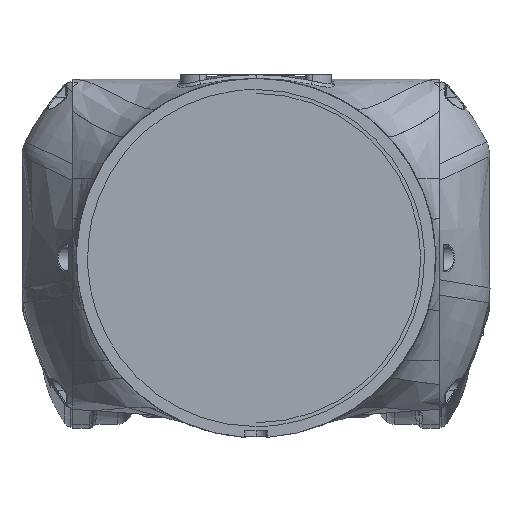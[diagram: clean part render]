
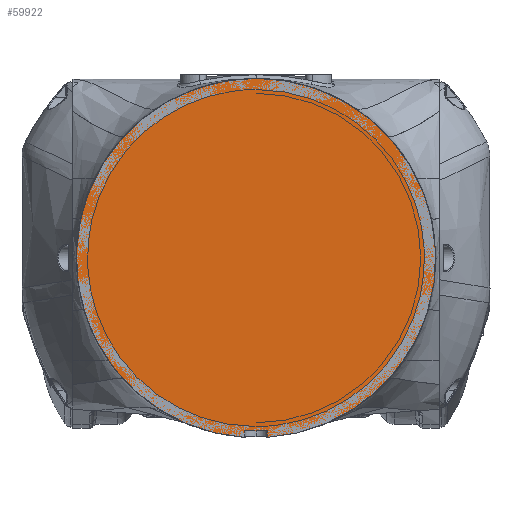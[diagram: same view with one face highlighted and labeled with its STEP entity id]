
A CAD part, left-side view. The second image highlights one B-rep face of the part: STEP entity #59922.
In plain terms, the highlighted planar face has unit normal (-1, 0, 0).
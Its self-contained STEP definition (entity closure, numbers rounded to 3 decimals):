
#3888 = CARTESIAN_POINT ( 'NONE',  ( 153.66, -36.149, 0. ) ) ;
#4900 = VECTOR ( 'NONE', #70456, 1000. ) ;
#5626 = CARTESIAN_POINT ( 'NONE',  ( 153.66, 0., 0. ) ) ;
#6675 = EDGE_CURVE ( 'NONE', #54470, #45057, #63961, .T. ) ;
#7487 = EDGE_LOOP ( 'NONE', ( #47239, #46988, #44634, #57866, #60477 ) ) ;
#11701 = VERTEX_POINT ( 'NONE', #39465 ) ;
#16525 = AXIS2_PLACEMENT_3D ( 'NONE', #59870, #86655, #26484 ) ;
#16888 = LINE ( 'NONE', #43602, #4900 ) ;
#17796 = DIRECTION ( 'NONE',  ( 0., 0., 1. ) ) ;
#20277 = CARTESIAN_POINT ( 'NONE',  ( 153.66, -36.149, 422.794 ) ) ;
#24834 = AXIS2_PLACEMENT_3D ( 'NONE', #5626, #32301, #59131 ) ;
#25304 = DIRECTION ( 'NONE',  ( 0., 0., 1. ) ) ;
#26484 = DIRECTION ( 'NONE',  ( 0., 0., 1. ) ) ;
#30597 = DIRECTION ( 'NONE',  ( 0., 0., -1. ) ) ;
#32301 = DIRECTION ( 'NONE',  ( -1., 0., 0. ) ) ;
#32960 = VERTEX_POINT ( 'NONE', #63428 ) ;
#37836 = AXIS2_PLACEMENT_3D ( 'NONE', #51114, #77971, #17796 ) ;
#38870 = FACE_OUTER_BOUND ( 'NONE', #7487, .T. ) ;
#39465 = CARTESIAN_POINT ( 'NONE',  ( 153.66, -30.149, 422.794 ) ) ;
#43602 = CARTESIAN_POINT ( 'NONE',  ( 153.66, 0., 422.794 ) ) ;
#44634 = ORIENTED_EDGE ( 'NONE', *, *, #51923, .T. ) ;
#45057 = VERTEX_POINT ( 'NONE', #60329 ) ;
#46988 = ORIENTED_EDGE ( 'NONE', *, *, #47971, .T. ) ;
#47239 = ORIENTED_EDGE ( 'NONE', *, *, #63048, .T. ) ;
#47971 = EDGE_CURVE ( 'NONE', #59033, #32960, #75816, .T. ) ;
#51114 = CARTESIAN_POINT ( 'NONE',  ( 153.66, -33.149, 468.9 ) ) ;
#51737 = VECTOR ( 'NONE', #25304, 1000. ) ;
#51923 = EDGE_CURVE ( 'NONE', #32960, #11701, #58681, .T. ) ;
#54331 = CIRCLE ( 'NONE', #16525, 48. ) ;
#54470 = VERTEX_POINT ( 'NONE', #20277 ) ;
#57866 = ORIENTED_EDGE ( 'NONE', *, *, #70823, .T. ) ;
#58681 = LINE ( 'NONE', #85476, #51737 ) ;
#59033 = VERTEX_POINT ( 'NONE', #83914 ) ;
#59131 = DIRECTION ( 'NONE',  ( 0., 0., 1. ) ) ;
#59870 = CARTESIAN_POINT ( 'NONE',  ( 153.66, -33.149, 468.9 ) ) ;
#59922 = ADVANCED_FACE ( 'NONE', ( #38870 ), #65702, .T. ) ;
#60329 = CARTESIAN_POINT ( 'NONE',  ( 153.66, -36.149, 420.994 ) ) ;
#60477 = ORIENTED_EDGE ( 'NONE', *, *, #6675, .T. ) ;
#63048 = EDGE_CURVE ( 'NONE', #45057, #59033, #54331, .T. ) ;
#63428 = CARTESIAN_POINT ( 'NONE',  ( 153.66, -30.149, 420.994 ) ) ;
#63961 = LINE ( 'NONE', #3888, #78136 ) ;
#65702 = PLANE ( 'NONE',  #24834 ) ;
#70456 = DIRECTION ( 'NONE',  ( 0., -1., 0. ) ) ;
#70823 = EDGE_CURVE ( 'NONE', #11701, #54470, #16888, .T. ) ;
#75816 = CIRCLE ( 'NONE', #37836, 48. ) ;
#77971 = DIRECTION ( 'NONE',  ( -1., 0., 0. ) ) ;
#78136 = VECTOR ( 'NONE', #30597, 1000. ) ;
#83914 = CARTESIAN_POINT ( 'NONE',  ( 153.66, -33.149, 516.9 ) ) ;
#85476 = CARTESIAN_POINT ( 'NONE',  ( 153.66, -30.149, 0. ) ) ;
#86655 = DIRECTION ( 'NONE',  ( -1., 0., 0. ) ) ;
